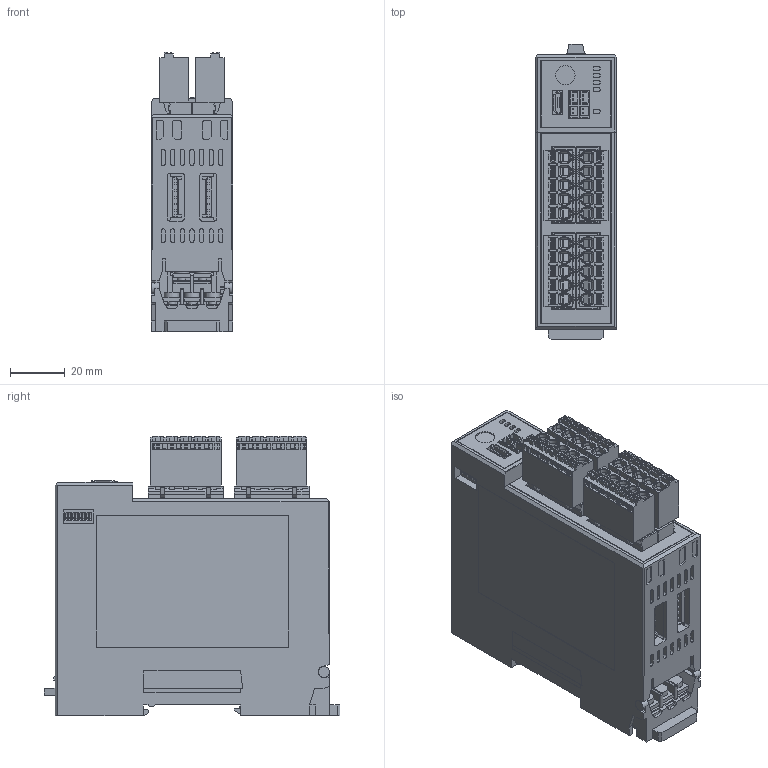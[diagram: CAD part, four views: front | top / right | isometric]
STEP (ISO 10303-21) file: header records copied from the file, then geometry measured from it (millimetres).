
FILE_DESCRIPTION (( 'STEP AP203' ), '1' );
FILE_NAME ('QTC1-RCC_RPC_HP_260603.STEP', '2026-06-04T02:21:27', ( '' ), ( '' ), 'SwSTEP 2.0', 'SolidWorks 2025', '' );
FILE_SCHEMA (( 'CONFIG_CONTROL_DESIGN' ));
Length unit declared in the file: millimetre
Products named in the file (3): DINKLE_2ess-05P_260603; QTC1-RCC_RPC_HP_260603; QTC1-R_HP_260603_QTC1-RCC_RPC
Assembly tree (5 placements, depth 2):
  QTC1-RCC_RPC_HP_260603
    QTC1-R_HP_260603_QTC1-RCC_RPC
    DINKLE_2ess-05P_260603  x4
Bounding box: 29.8 x 107.85 x 102 mm (x, y, z)
Volume: 238514.2 mm3; surface area: 57014.8 mm2
Topology: 5 solids, 19 shells, 5784 faces, 14474 edges, 8942 vertices
Faces by surface type: plane 3157, cylinder 1789, bspline 288, torus 232, sphere 208, cone 110
Entity records: 96991 total; most frequent: CARTESIAN_POINT 24287, ORIENTED_EDGE 15312, DIRECTION 14575, EDGE_CURVE 7656, VECTOR 5731, LINE 5731, VERTEX_POINT 4895, AXIS2_PLACEMENT_3D 4422
